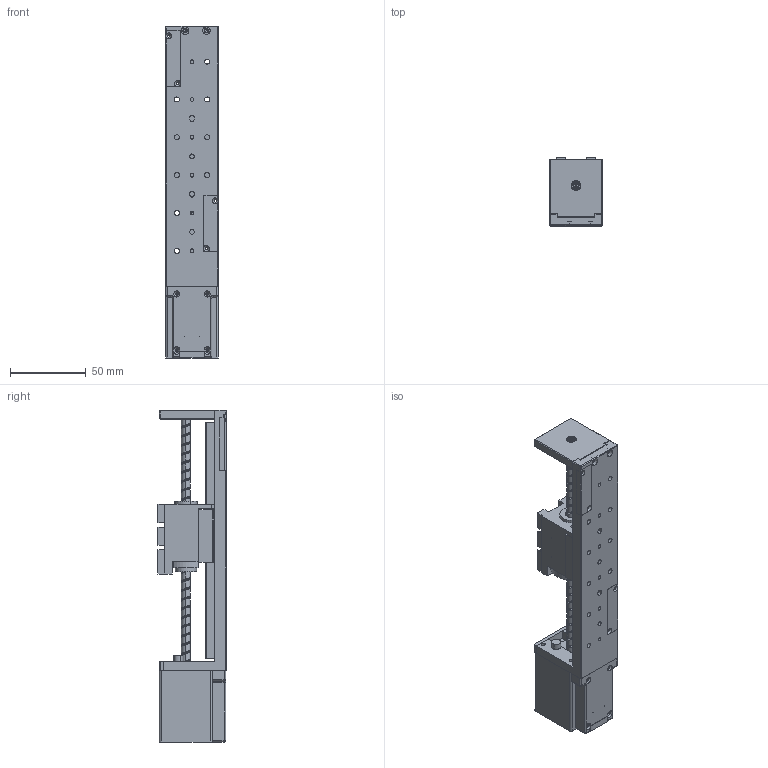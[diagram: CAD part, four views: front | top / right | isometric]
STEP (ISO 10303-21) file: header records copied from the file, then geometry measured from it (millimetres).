
FILE_DESCRIPTION (( 'STEP AP203' ), '1' );
FILE_NAME ('EML35A47-B06100.STEP', '2023-11-10T07:56:49', ( '' ), ( '' ), 'SwSTEP 2.0', 'SolidWorks 2023', '' );
FILE_SCHEMA (( 'CONFIG_CONTROL_DESIGN' ));
Length unit declared in the file: millimetre
Products named in the file (16): MGN12C滑块; JFM-0405-06; MGN12C-156导轨; 35A47.3端子盖; 28-42端子线路板; 35光电开关滑台安装座; 35经济模组轴承座; 28-42前导光片; XY-1070; 0606螺母; 35单边桥; 35A47-GZ0606-172; 35-100光电经济模组基座; 28-42后导光片; EML35A47-B06100; 防撞牛筋柱3-6-4
Assembly tree (16 placements, depth 2):
  EML35A47-B06100
    35-100光电经济模组基座
    MGN12C-156导轨
    MGN12C滑块
    35经济模组轴承座
    35光电开关滑台安装座
    35A47-GZ0606-172
    0606螺母
    35单边桥
    28-42前导光片
    28-42后导光片
    35A47.3端子盖
    28-42端子线路板
    JFM-0405-06
    XY-1070
    防撞牛筋柱3-6-4  x2
Bounding box: 35 x 45 x 219.35 mm (x, y, z)
Volume: 157888.5 mm3; surface area: 71148.6 mm2
Topology: 16 solids, 16 shells, 877 faces, 2365 edges, 1494 vertices
Faces by surface type: cylinder 405, plane 368, cone 87, torus 7, bspline 6, sphere 4
Entity records: 42634 total; most frequent: CARTESIAN_POINT 18790, DIRECTION 4698, ORIENTED_EDGE 4598, EDGE_CURVE 2299, AXIS2_PLACEMENT_3D 1680, VERTEX_POINT 1486, LINE 1338, VECTOR 1338
